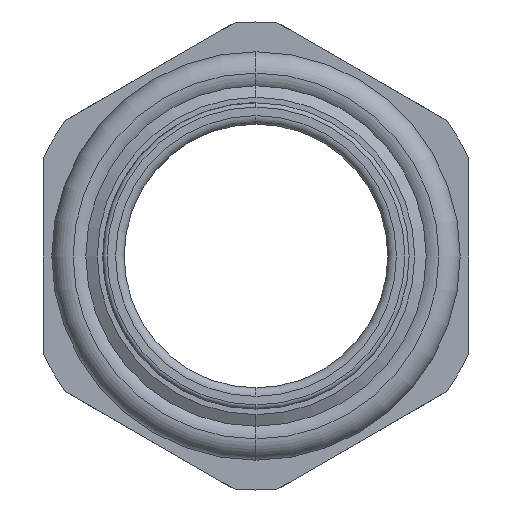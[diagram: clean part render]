
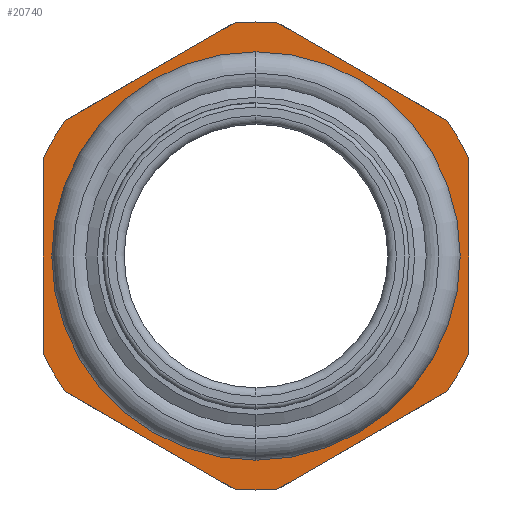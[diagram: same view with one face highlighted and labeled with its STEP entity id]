
A CAD part, left-side view. The second image highlights one B-rep face of the part: STEP entity #20740.
In plain terms, the highlighted planar face has unit normal (-1, 0, 0) as drawn and (0, 0, 1) by its records, which use the part's own axes.
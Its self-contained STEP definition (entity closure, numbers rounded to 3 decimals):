
#120=CARTESIAN_POINT('',(3.184,-4.484,
7.844));
#130=VERTEX_POINT('',#120);
#160=CARTESIAN_POINT('',(3.184,-4.484,
7.844));
#170=DIRECTION('',(0.5,0.866,0.));
#180=VECTOR('',#170,1.);
#190=LINE('',#160,#180);
#200=CARTESIAN_POINT('',(5.476,-0.516,
7.844));
#210=VERTEX_POINT('',#200);
#220=EDGE_CURVE('',#130,#210,#190,.T.);
#1360=CARTESIAN_POINT('',(3.184,4.484,
7.844));
#1370=VERTEX_POINT('',#1360);
#1400=CARTESIAN_POINT('',(0.,0.,
7.844));
#1410=DIRECTION('',(0.,0.,-1.));
#1420=DIRECTION('',(1.,0.,0.));
#1430=AXIS2_PLACEMENT_3D('',#1400,#1410,#1420);
#1440=CIRCLE('',#1430,5.5);
#1450=CARTESIAN_POINT('',(2.291,5.,
7.844));
#1460=VERTEX_POINT('',#1450);
#1470=EDGE_CURVE('',#1460,#1370,#1440,.T.);
#1730=CARTESIAN_POINT('',(2.291,5.,
7.844));
#1740=DIRECTION('',(-1.,0.,0.));
#1750=VECTOR('',#1740,1.);
#1760=LINE('',#1730,#1750);
#1770=CARTESIAN_POINT('',(-2.291,5.,
7.844));
#1780=VERTEX_POINT('',#1770);
#1790=EDGE_CURVE('',#1460,#1780,#1760,.T.);
#2470=CARTESIAN_POINT('',(-4.8,0.,
7.844));
#2480=VERTEX_POINT('',#2470);
#2530=CARTESIAN_POINT('',(0.,0.,
7.844));
#2540=DIRECTION('',(0.,0.,-1.));
#2550=DIRECTION('',(1.,0.,0.));
#2560=AXIS2_PLACEMENT_3D('',#2530,#2540,#2550);
#2570=CIRCLE('',#2560,4.8);
#2580=CARTESIAN_POINT('',(4.8,0.,
7.844));
#2590=VERTEX_POINT('',#2580);
#2600=EDGE_CURVE('',#2480,#2590,#2570,.T.);
#19860=CARTESIAN_POINT('',(-4.65,0.,
7.844));
#19870=DIRECTION('',(0.,0.,-1.));
#19880=DIRECTION('',(0.,1.,0.));
#19890=AXIS2_PLACEMENT_3D('',#19860,#19870,#19880);
#19900=PLANE('',#19890);
#19910=CARTESIAN_POINT('',(0.,0.,
7.844));
#19920=DIRECTION('',(0.,0.,-1.));
#19930=DIRECTION('',(1.,0.,0.));
#19940=AXIS2_PLACEMENT_3D('',#19910,#19920,#19930);
#19950=CIRCLE('',#19940,5.5);
#19960=CARTESIAN_POINT('',(-5.476,-0.516,
7.844));
#19970=VERTEX_POINT('',#19960);
#19980=CARTESIAN_POINT('',(-5.476,0.516,
7.844));
#19990=VERTEX_POINT('',#19980);
#20000=EDGE_CURVE('',#19970,#19990,#19950,.T.);
#20010=ORIENTED_EDGE('',*,*,#20000,.F.);
#20020=CARTESIAN_POINT('',(-3.184,4.484,
7.844));
#20030=DIRECTION('',(-0.5,-0.866,0.));
#20040=VECTOR('',#20030,1.);
#20050=LINE('',#20020,#20040);
#20060=CARTESIAN_POINT('',(-3.184,4.484,
7.844));
#20070=VERTEX_POINT('',#20060);
#20080=EDGE_CURVE('',#20070,#19990,#20050,.T.);
#20090=ORIENTED_EDGE('',*,*,#20080,.T.);
#20100=CARTESIAN_POINT('',(0.,0.,
7.844));
#20110=DIRECTION('',(0.,0.,-1.));
#20120=DIRECTION('',(1.,0.,0.));
#20130=AXIS2_PLACEMENT_3D('',#20100,#20110,#20120);
#20140=CIRCLE('',#20130,5.5);
#20150=EDGE_CURVE('',#20070,#1780,#20140,.T.);
#20160=ORIENTED_EDGE('',*,*,#20150,.F.);
#20170=ORIENTED_EDGE('',*,*,#1790,.T.);
#20180=ORIENTED_EDGE('',*,*,#1470,.F.);
#20190=CARTESIAN_POINT('',(5.476,0.516,
7.844));
#20200=DIRECTION('',(-0.5,0.866,-0.));
#20210=VECTOR('',#20200,1.);
#20220=LINE('',#20190,#20210);
#20230=CARTESIAN_POINT('',(5.476,0.516,
7.844));
#20240=VERTEX_POINT('',#20230);
#20250=EDGE_CURVE('',#20240,#1370,#20220,.T.);
#20260=ORIENTED_EDGE('',*,*,#20250,.T.);
#20270=CARTESIAN_POINT('',(0.,0.,
7.844));
#20280=DIRECTION('',(0.,0.,-1.));
#20290=DIRECTION('',(1.,0.,0.));
#20300=AXIS2_PLACEMENT_3D('',#20270,#20280,#20290);
#20310=CIRCLE('',#20300,5.5);
#20320=EDGE_CURVE('',#20240,#210,#20310,.T.);
#20330=ORIENTED_EDGE('',*,*,#20320,.F.);
#20340=ORIENTED_EDGE('',*,*,#220,.T.);
#20350=CARTESIAN_POINT('',(0.,0.,
7.844));
#20360=DIRECTION('',(0.,0.,-1.));
#20370=DIRECTION('',(1.,0.,0.));
#20380=AXIS2_PLACEMENT_3D('',#20350,#20360,#20370);
#20390=CIRCLE('',#20380,5.5);
#20400=CARTESIAN_POINT('',(2.291,-5.,
7.844));
#20410=VERTEX_POINT('',#20400);
#20420=EDGE_CURVE('',#130,#20410,#20390,.T.);
#20430=ORIENTED_EDGE('',*,*,#20420,.F.);
#20440=CARTESIAN_POINT('',(-2.291,-5.,
7.844));
#20450=DIRECTION('',(1.,0.,0.));
#20460=VECTOR('',#20450,1.);
#20470=LINE('',#20440,#20460);
#20480=CARTESIAN_POINT('',(-2.291,-5.,
7.844));
#20490=VERTEX_POINT('',#20480);
#20500=EDGE_CURVE('',#20490,#20410,#20470,.T.);
#20510=ORIENTED_EDGE('',*,*,#20500,.T.);
#20520=CARTESIAN_POINT('',(0.,0.,
7.844));
#20530=DIRECTION('',(0.,0.,-1.));
#20540=DIRECTION('',(1.,0.,0.));
#20550=AXIS2_PLACEMENT_3D('',#20520,#20530,#20540);
#20560=CIRCLE('',#20550,5.5);
#20570=CARTESIAN_POINT('',(-3.184,-4.484,
7.844));
#20580=VERTEX_POINT('',#20570);
#20590=EDGE_CURVE('',#20490,#20580,#20560,.T.);
#20600=ORIENTED_EDGE('',*,*,#20590,.F.);
#20610=CARTESIAN_POINT('',(-5.476,-0.516,
7.844));
#20620=DIRECTION('',(0.5,-0.866,0.));
#20630=VECTOR('',#20620,1.);
#20640=LINE('',#20610,#20630);
#20650=EDGE_CURVE('',#19970,#20580,#20640,.T.);
#20660=ORIENTED_EDGE('',*,*,#20650,.T.);
#20670=EDGE_LOOP('',(#20660,#20600,#20510,#20430,#20340,#20330,#20260,
#20180,#20170,#20160,#20090,#20010));
#20680=FACE_OUTER_BOUND('',#20670,.T.);
#20690=EDGE_CURVE('',#2590,#2480,#2570,.T.);
#20700=ORIENTED_EDGE('',*,*,#20690,.T.);
#20710=ORIENTED_EDGE('',*,*,#2600,.T.);
#20720=EDGE_LOOP('',(#20710,#20700));
#20730=FACE_BOUND('',#20720,.T.);
#20740=ADVANCED_FACE('',(#20680,#20730),#19900,.F.);
